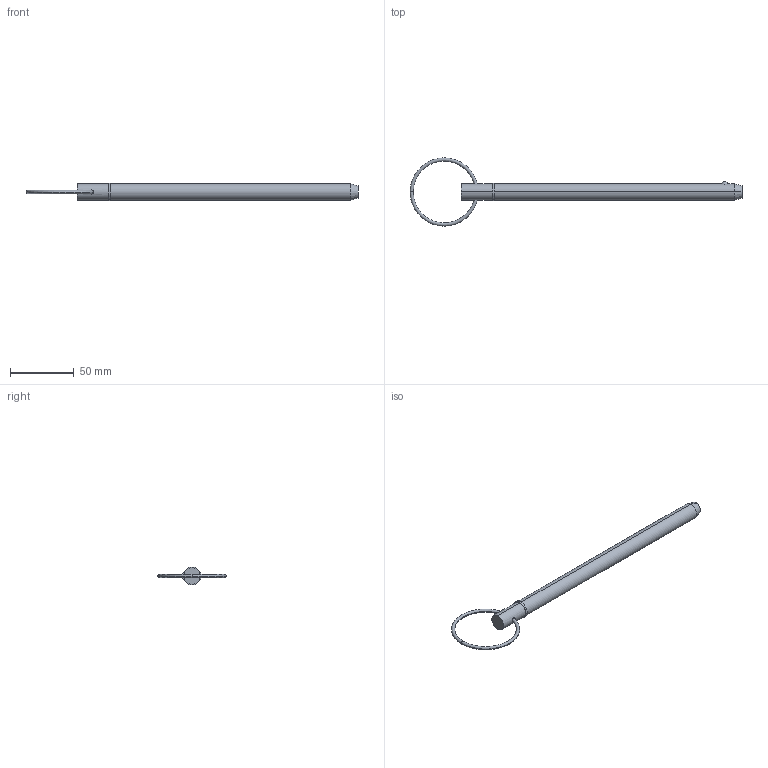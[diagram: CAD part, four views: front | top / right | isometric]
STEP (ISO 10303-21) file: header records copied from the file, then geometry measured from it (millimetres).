
FILE_DESCRIPTION (( 'STEP AP203' ), '1' );
FILE_NAME ('33016.W5070.step', '2024-11-07T11:10:19', ( '' ), ( '' ), 'SwSTEP 2.0', 'SolidWorks 2019', '' );
FILE_SCHEMA (( 'CONFIG_CONTROL_DESIGN' ));
Length unit declared in the file: millimetre
Products named in the file (3): Part2_33016.W5070; Part1_33016.W5070; 33016.W5070
Assembly tree (2 placements, depth 2):
  33016.W5070
    Part1_33016.W5070
    Part2_33016.W5070
Bounding box: 259.43 x 53.34 x 13.97 mm (x, y, z)
Volume: 28380.1 mm3; surface area: 10382.3 mm2
Topology: 2 solids, 2 shells, 22 faces, 43 edges, 26 vertices
Faces by surface type: torus 8, cylinder 6, plane 4, sphere 2, cone 2
Entity records: 1039 total; most frequent: CARTESIAN_POINT 262, DIRECTION 120, ORIENTED_EDGE 86, AXIS2_PLACEMENT_3D 56, EDGE_CURVE 43, CIRCLE 29, EDGE_LOOP 27, PERSON_AND_ORGANIZATION 26
